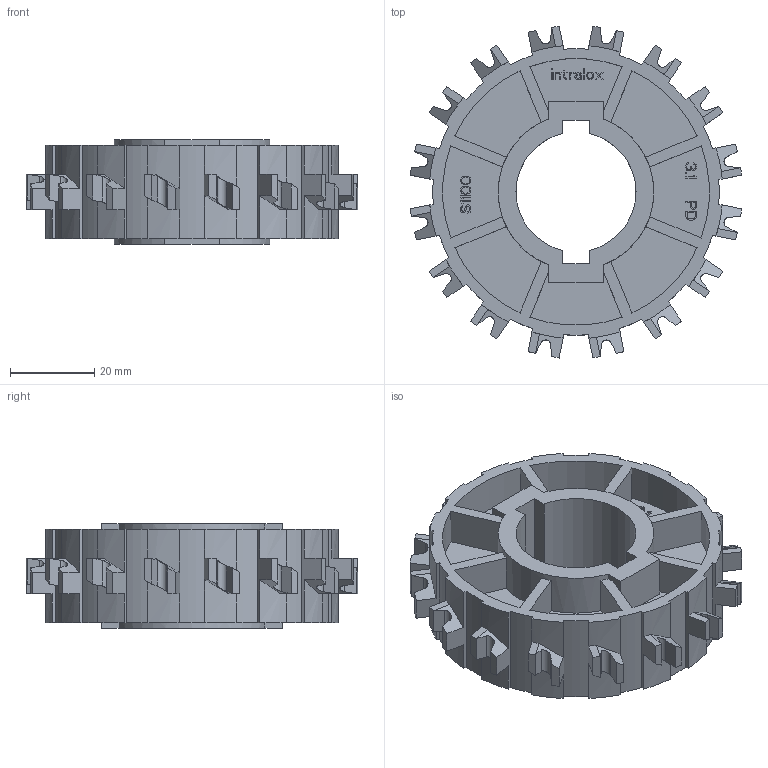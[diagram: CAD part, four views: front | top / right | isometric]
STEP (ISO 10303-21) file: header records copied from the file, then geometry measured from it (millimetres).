
FILE_DESCRIPTION((''),'2;1');
FILE_NAME('S1100_SPROCKET_31X1_PILOT','2008-12-12T',('jmumphre'),(''),'PRO/ENGINEER BY PARAMETRIC TECHNOLOGY CORPORATION, 2008150','PRO/ENGINEER BY PARAMETRIC TECHNOLOGY CORPORATION, 2008150','');
FILE_SCHEMA(('CONFIG_CONTROL_DESIGN'));
Length unit declared in the file: inch
Products named in the file (1): S1100_SPROCKET_31X1_PILOT
Bounding box: 79 x 79 x 24.89 mm (x, y, z)
Volume: 41386.9 mm3; surface area: 25343.3 mm2
Topology: 1 solids, 1 shells, 793 faces, 2260 edges, 1496 vertices
Faces by surface type: plane 707, cylinder 86
Entity records: 26050 total; most frequent: CARTESIAN_POINT 5301, ORIENTED_EDGE 4520, DIRECTION 3946, EDGE_CURVE 2260, VECTOR 2032, LINE 2032, VERTEX_POINT 1496, AXIS2_PLACEMENT_3D 957
